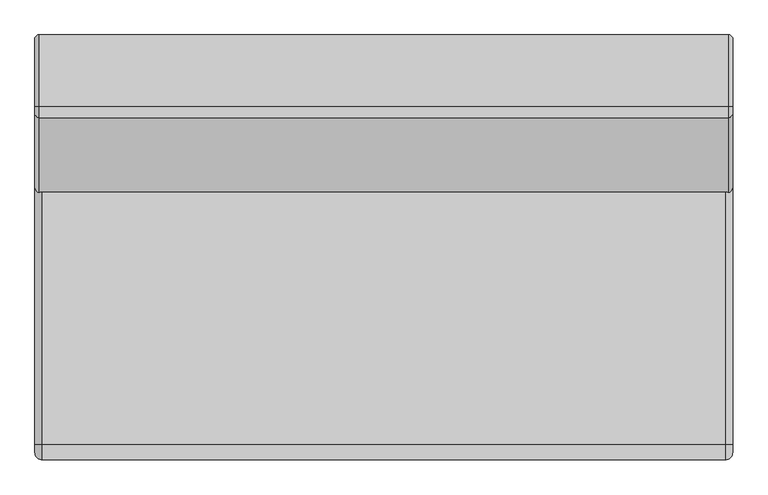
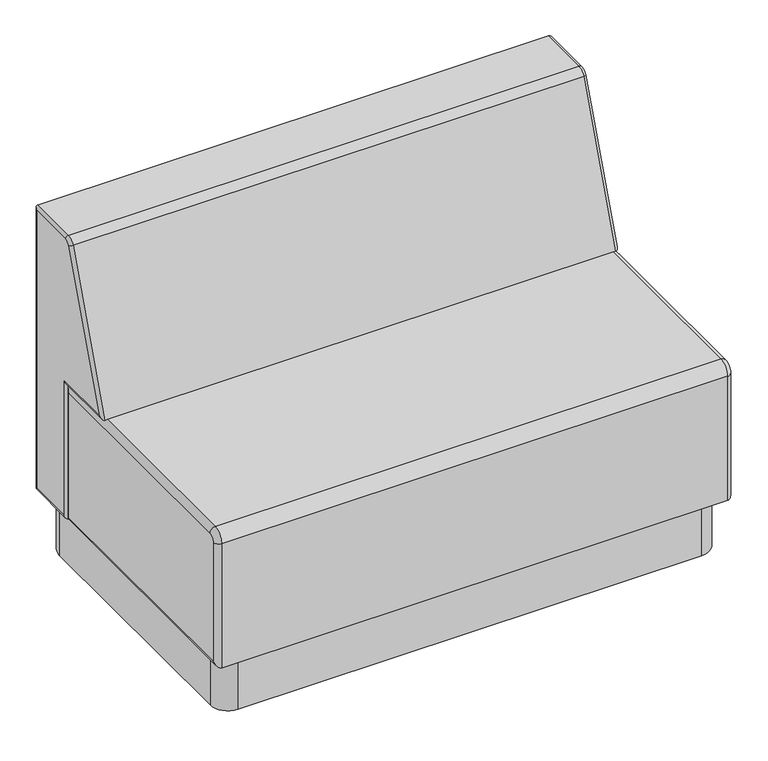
"""IFC4 building model written with IfcOpenShell, lengths in millimetres: furniture geometry, Stance_HC-Rosetta-Modular_Seating_Plinth_Base : RM200P-AL-BHP."""

from ifc_helpers import new_model, si_unit, point, frame, frame_2d, origin, origin_with_axes, place, context, project, spatial, polyline, circle_curve, ellipse_curve, trimmed, segment, composite_curve, outline, extrude, source, transform, mapped, element, save
from ifc_brep_helpers import plane_surface, cylinder_surface, revolved_surface, advanced_brep


def furniture_e0c8666b(model_context):
    return source(origin(), model_context, "Body", "SolidModel", [
        extrude(outline(composite_curve([segment(trimmed(circle_curve(frame_2d((54.0078674, -657.1680567)), 11.90625), [point((54.0078674, -669.0743067))], [point((54.0078674, -645.2618067))], False, "CARTESIAN"), True, "CONTINUOUS"), segment(trimmed(circle_curve(frame_2d((54.0078674, -657.1680567)), 11.90625), [point((54.0078674, -645.2618067))], [point((54.0078674, -669.0743067))], False, "CARTESIAN"), True, "CONTINUOUS")], self_intersect=False)), origin_with_axes(), (0.0, 0.0, 1.0), 6.3627),
        extrude(outline(composite_curve([segment(trimmed(circle_curve(frame_2d((1114.3921326, -657.1680567)), 11.90625), [point((1114.3921326, -669.0743067))], [point((1114.3921326, -645.2618067))], False, "CARTESIAN"), True, "CONTINUOUS"), segment(trimmed(circle_curve(frame_2d((1114.3921326, -657.1680567)), 11.90625), [point((1114.3921326, -645.2618067))], [point((1114.3921326, -669.0743067))], False, "CARTESIAN"), True, "CONTINUOUS")], self_intersect=False)), origin_with_axes(), (0.0, 0.0, 1.0), 6.3627),
        extrude(outline(composite_curve([segment(trimmed(circle_curve(frame_2d((54.0078674, -54.0319433)), 11.90625), [point((54.0078674, -65.9381933))], [point((54.0078674, -42.1256933))], False, "CARTESIAN"), True, "CONTINUOUS"), segment(trimmed(circle_curve(frame_2d((54.0078674, -54.0319433)), 11.90625), [point((54.0078674, -42.1256933))], [point((54.0078674, -65.9381933))], False, "CARTESIAN"), True, "CONTINUOUS")], self_intersect=False)), origin_with_axes(), (0.0, 0.0, 1.0), 6.3627),
        extrude(outline(composite_curve([segment(trimmed(circle_curve(frame_2d((1114.3921326, -54.0319433)), 11.90625), [point((1114.3921326, -65.9381933))], [point((1114.3921326, -42.1256933))], False, "CARTESIAN"), True, "CONTINUOUS"), segment(trimmed(circle_curve(frame_2d((1114.3921326, -54.0319433)), 11.90625), [point((1114.3921326, -42.1256933))], [point((1114.3921326, -65.9381933))], False, "CARTESIAN"), True, "CONTINUOUS")], self_intersect=False)), origin_with_axes(), (0.0, 0.0, 1.0), 6.3627),
        extrude(outline(composite_curve([segment(trimmed(circle_curve(frame_2d((1108.4875, -59.9125)), 39.6875), [point((1108.4875, -20.225))], [point((1148.175, -59.9125))], False, "CARTESIAN"), True, "CONTINUOUS"), segment(polyline([(1148.175, -59.9125), (1148.175, -651.2875)]), True, "CONTINUOUS"), segment(trimmed(circle_curve(frame_2d((1108.4875, -651.2875)), 39.6875), [point((1148.175, -651.2875))], [point((1108.4875, -690.975))], False, "CARTESIAN"), True, "CONTINUOUS"), segment(polyline([(1108.4875, -690.975), (59.9125, -690.975)]), True, "CONTINUOUS"), segment(trimmed(circle_curve(frame_2d((59.9125, -651.2875)), 39.6875), [point((59.9125, -690.975))], [point((20.225, -651.2875))], False, "CARTESIAN"), True, "CONTINUOUS"), segment(polyline([(20.225, -651.2875), (20.225, -59.9125)]), True, "CONTINUOUS"), segment(trimmed(circle_curve(frame_2d((59.9125, -59.9125)), 39.6875), [point((20.225, -59.9125))], [point((59.9125, -20.225))], False, "CARTESIAN"), True, "CONTINUOUS"), segment(polyline([(59.9125, -20.225), (1108.4875, -20.225)]), True, "CONTINUOUS")], self_intersect=False)), frame((0.0, 0.0, 6.3627), z_axis=(0.0, 0.0, 1.0), x_axis=(1.0, 0.0, 0.0)), (0.0, 0.0, 1.0), 128.51892),
        advanced_brep(
        [(1155.7, -711.1999758, 431.8), (1155.7, -685.7999758, 457.2), (12.7, -685.7999758, 457.2), (12.7, -711.1999758, 431.8), (12.7, -711.1999758, 134.88162), (1155.7, -711.1999758, 134.88162), (12.7, -120.65, 134.88162), (1155.7, -120.65, 134.88162), (12.7, -120.65, 457.2), (1155.7, -120.65, 457.2), (1168.4, -698.4999758, 147.58162), (1168.4, -133.35, 147.58162), (1168.4, -133.35, 444.5), (1168.4, -685.7999758, 444.5), (1168.4, -698.4999758, 431.8), (0.0, -685.7999758, 444.5), (0.0, -133.35, 444.5), (0.0, -133.35, 147.58162), (0.0, -698.4999758, 147.58162), (0.0, -698.4999758, 431.8)],
        [
            (0, 1, circle_curve(frame((1155.7, -685.7999758, 431.8), z_axis=(-1.0, 0.0, 0.0), x_axis=(0.0, 0.0, 1.0)), 25.4)),
            (1, 2),
            (2, 3, circle_curve(frame((12.7, -685.7999758, 431.8), z_axis=(1.0, 0.0, 0.0), x_axis=(0.0, 0.0, 1.0)), 25.4)),
            (3, 0),
            (3, 4),
            (4, 5),
            (5, 0),
            (4, 6),
            (6, 7),
            (7, 5),
            (6, 8),
            (8, 9),
            (9, 7),
            (10, 11),
            (11, 12),
            (12, 13),
            (13, 14, circle_curve(frame((1168.4, -685.7999758, 431.8), z_axis=(1.0, 0.0, 0.0), x_axis=(0.0, 0.0, 1.0)), 12.7)),
            (14, 10),
            (15, 16),
            (16, 17),
            (17, 18),
            (18, 19),
            (19, 15, circle_curve(frame((0.0, -685.7999758, 431.8), z_axis=(-1.0, 0.0, 0.0), x_axis=(0.0, 0.0, 1.0)), 12.7)),
            (1, 9),
            (8, 2),
            (0, 14, circle_curve(frame((1155.7, -698.4999758, 431.8), z_axis=(0.0, 0.0, 1.0), x_axis=(0.0, 1.0, 0.0)), 12.7)),
            (13, 1, circle_curve(frame((1155.7, -685.7999758, 444.5), z_axis=(0.0, -1.0, 0.0), x_axis=(0.0, 0.0, -1.0)), 12.7)),
            (2, 15, circle_curve(frame((12.7, -685.7999758, 444.5), z_axis=(0.0, -1.0, 0.0), x_axis=(0.0, 0.0, -1.0)), 12.7)),
            (19, 3, circle_curve(frame((12.7, -698.4999758, 431.8), z_axis=(0.0, 0.0, 1.0), x_axis=(0.0, 1.0, 0.0)), 12.7)),
            (5, 10, ellipse_curve(frame((1155.7, -698.4999758, 147.58162), z_axis=(0.0, -0.7071067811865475, 0.7071067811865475), x_axis=(0.0, 0.7071067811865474, 0.7071067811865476)), 17.9605122, 12.7)),
            (18, 4, ellipse_curve(frame((12.7, -698.4999758, 147.58162), z_axis=(0.0, -0.7071067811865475, 0.7071067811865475), x_axis=(0.0, 0.7071067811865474, 0.7071067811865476)), 17.9605122, 12.7)),
            (7, 11, ellipse_curve(frame((1155.7, -133.35, 147.58162), z_axis=(0.0, -0.7071067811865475, -0.7071067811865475), x_axis=(0.0, -0.7071067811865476, 0.7071067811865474)), 17.9605122, 12.7)),
            (17, 6, ellipse_curve(frame((12.7, -133.35, 147.58162), z_axis=(0.0, -0.7071067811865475, -0.7071067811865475), x_axis=(0.0, -0.7071067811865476, 0.7071067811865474)), 17.9605122, 12.7)),
            (9, 12, ellipse_curve(frame((1155.7, -133.35, 444.5), z_axis=(0.0, 0.7071067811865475, -0.7071067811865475), x_axis=(0.0, -0.7071067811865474, -0.7071067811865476)), 17.9605122, 12.7)),
            (16, 8, ellipse_curve(frame((12.7, -133.35, 444.5), z_axis=(0.0, 0.7071067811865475, -0.7071067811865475), x_axis=(0.0, -0.7071067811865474, -0.7071067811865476)), 17.9605122, 12.7)),
        ],
        [
            cylinder_surface(frame((0.0, -685.7999758, 431.8), z_axis=(1.0, 0.0, 0.0), x_axis=(0.0, 0.0, 1.0)), 25.4),
            plane_surface(frame((12.7, -711.1999758, 431.8), z_axis=(0.0, -1.0, 0.0), x_axis=(0.0, 0.0, -1.0))),
            plane_surface(frame((12.7, -711.1999758, 134.88162), z_axis=(0.0, 0.0, -1.0), x_axis=(0.0, 1.0, 0.0))),
            plane_surface(frame((12.7, -120.65, 134.88162), z_axis=(0.0, 1.0, 0.0), x_axis=(0.0, 0.0, 1.0))),
            plane_surface(frame((1168.4, -133.35, 444.5), z_axis=(1.0, 0.0, 0.0), x_axis=(0.0, -1.0, 0.0))),
            plane_surface(frame((0.0, -139.7, 438.15), z_axis=(-1.0, 0.0, 0.0), x_axis=(0.0, -1.0, 0.0))),
            plane_surface(frame((12.7, -120.65, 457.2), z_axis=(0.0, 0.0, 1.0), x_axis=(0.0, -1.0, 0.0))),
            revolved_surface(trimmed(ellipse_curve(frame((1155.7, -685.7999758, 444.5), z_axis=(0.0, 1.0, 0.0), x_axis=(0.0, 0.0, -1.0)), 12.7, 12.7), [point((1155.7, -685.7999758, 457.2))], [point((1168.4, -685.7999758, 444.5))], True, "CARTESIAN"), (0.0, -685.7999758, 431.8), (1.0, 0.0, 0.0)),
            revolved_surface(trimmed(ellipse_curve(frame((12.7, -685.7999758, 444.5), z_axis=(0.0, 1.0, 0.0), x_axis=(0.0, 0.0, -1.0)), 12.7, 12.7), [point((0.0, -685.7999758, 444.5))], [point((12.7, -685.7999758, 457.2))], True, "CARTESIAN"), (0.0, -685.7999758, 431.8), (1.0, 0.0, 0.0)),
            cylinder_surface(frame((1155.7, -698.4999758, 431.8), z_axis=(0.0, 0.0, 1.0), x_axis=(0.0, 1.0, 0.0)), 12.7),
            cylinder_surface(frame((12.7, -698.4999758, 431.8), z_axis=(0.0, 0.0, 1.0), x_axis=(0.0, 1.0, 0.0)), 12.7),
            cylinder_surface(frame((1155.7, -711.1999758, 147.58162), z_axis=(0.0, -1.0, 0.0), x_axis=(0.0, 0.0, 1.0)), 12.7),
            cylinder_surface(frame((12.7, -711.1999758, 147.58162), z_axis=(0.0, -1.0, 0.0), x_axis=(0.0, 0.0, 1.0)), 12.7),
            cylinder_surface(frame((1155.7, -133.35, 134.88162), z_axis=(0.0, 0.0, -1.0), x_axis=(0.0, -1.0, 0.0)), 12.7),
            cylinder_surface(frame((12.7, -133.35, 134.88162), z_axis=(0.0, 0.0, -1.0), x_axis=(0.0, -1.0, 0.0)), 12.7),
            cylinder_surface(frame((1155.7, -120.65, 444.5), z_axis=(0.0, 1.0, 0.0), x_axis=(0.0, 0.0, -1.0)), 12.7),
            cylinder_surface(frame((12.7, -120.65, 444.5), z_axis=(0.0, 1.0, 0.0), x_axis=(0.0, 0.0, -1.0)), 12.7),
        ],
        [
            (0, [[1, 2, 3, 4]]),
            (1, [[-4, 5, 6, 7]]),
            (2, [[-6, 8, 9, 10]]),
            (3, [[-9, 11, 12, 13]]),
            (4, [[14, 15, 16, 17, 18]]),
            (5, [[19, 20, 21, 22, 23]]),
            (6, [[-2, 24, -12, 25]]),
            (7, [[-1, 26, -17, 27]]),
            (8, [[-3, 28, -23, 29]]),
            (9, [[-7, 30, -18, -26]]),
            (10, [[-5, -29, -22, 31]]),
            (11, [[-10, 32, -14, -30]]),
            (12, [[-8, -31, -21, 33]]),
            (13, [[-13, 34, -15, -32]]),
            (14, [[-11, -33, -20, 35]]),
            (15, [[-16, -34, -24, -27]]),
            (16, [[-19, -28, -25, -35]]),
        ],
    ),
        advanced_brep(
        [(1168.4, -132.3105296, 798.0936558), (1168.4, -120.3764333, 806.45), (1162.05, -120.3764333, 812.8), (1162.05, -138.2775777, 800.2654837), (6.35, -138.2775777, 800.2654837), (6.35, -120.3764333, 812.8), (0.0, -120.3764333, 806.45), (0.0, -132.3105296, 798.0936558), (1162.05, -263.1432022, 457.2), (1168.4, -254.0744624, 463.55), (0.0, -254.0744624, 463.55), (6.35, -263.1432022, 457.2), (1162.05, -120.65, 457.2), (1168.4, -114.3, 463.55), (0.0, -114.3, 463.55), (6.35, -120.65, 457.2), (1162.05, -120.65, 134.88162), (1168.4, -114.3, 141.23162), (0.0, -114.3, 141.23162), (6.35, -120.65, 134.88162), (1162.05, 0.0, 134.88162), (1168.4, -6.35, 141.23162), (0.0, -6.35, 141.23162), (6.35, 0.0, 134.88162), (1162.05, 0.0, 812.8), (1168.4, -6.35, 806.45), (0.0, -6.35, 806.45), (6.35, 0.0, 812.8)],
        [
            (0, 1, circle_curve(frame((1168.4, -120.3764333, 793.75), z_axis=(-1.0, 0.0, 0.0), x_axis=(0.0, 0.0, 1.0)), 12.7)),
            (1, 2, circle_curve(frame((1162.05, -120.3764333, 806.45), z_axis=(0.0, -1.0, 0.0), x_axis=(0.0, 0.0, -1.0)), 6.35)),
            (2, 3, circle_curve(frame((1162.05, -120.3764333, 793.75), z_axis=(1.0, 0.0, 0.0), x_axis=(0.0, 0.0, 1.0)), 19.05)),
            (3, 0, circle_curve(frame((1162.05, -132.3105296, 798.0936558), z_axis=(0.0, 0.34202014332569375, 0.9396926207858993), x_axis=(0.0, 0.9396926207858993, -0.34202014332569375)), 6.35)),
            (4, 5, circle_curve(frame((6.35, -120.3764333, 793.75), z_axis=(-1.0, 0.0, 0.0), x_axis=(0.0, 0.0, 1.0)), 19.05)),
            (5, 6, circle_curve(frame((6.35, -120.3764333, 806.45), z_axis=(0.0, -1.0, 0.0), x_axis=(0.0, 0.0, -1.0)), 6.35)),
            (6, 7, circle_curve(frame((0.0, -120.3764333, 793.75), z_axis=(1.0, 0.0, 0.0), x_axis=(0.0, 0.0, 1.0)), 12.7)),
            (7, 4, circle_curve(frame((6.35, -132.3105296, 798.0936558), z_axis=(0.0, 0.3420201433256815, 0.9396926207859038), x_axis=(0.0, 0.9396926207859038, -0.3420201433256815)), 6.35)),
            (2, 5),
            (4, 3),
            (3, 8),
            (8, 9, ellipse_curve(frame((1162.05, -254.0744624, 463.55), z_axis=(0.0, -0.5735764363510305, 0.8191520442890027), x_axis=(0.0, 0.8191520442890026, 0.5735764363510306)), 11.0708872, 6.35)),
            (9, 0),
            (7, 10),
            (10, 11, ellipse_curve(frame((6.35, -254.0744624, 463.55), z_axis=(0.0, -0.5735764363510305, 0.8191520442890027), x_axis=(0.0, 0.8191520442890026, 0.5735764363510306)), 11.0708872, 6.35)),
            (11, 4),
            (11, 8),
            (8, 12),
            (12, 13, ellipse_curve(frame((1162.05, -114.3, 463.55), z_axis=(0.0, -0.7071067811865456, 0.7071067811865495), x_axis=(0.0, -0.7071067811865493, -0.7071067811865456)), 8.9802561, 6.35)),
            (13, 9),
            (10, 14),
            (14, 15, ellipse_curve(frame((6.35, -114.3, 463.55), z_axis=(0.0, -0.7071067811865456, 0.7071067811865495), x_axis=(0.0, -0.7071067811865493, -0.7071067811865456)), 8.9802561, 6.35)),
            (15, 11),
            (15, 12),
            (12, 16),
            (16, 17, ellipse_curve(frame((1162.05, -114.3, 141.23162), z_axis=(0.0, -0.7071067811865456, 0.7071067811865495), x_axis=(0.0, 0.7071067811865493, 0.7071067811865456)), 8.9802561, 6.35)),
            (17, 13),
            (14, 18),
            (18, 19, ellipse_curve(frame((6.35, -114.3, 141.23162), z_axis=(0.0, -0.7071067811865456, 0.7071067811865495), x_axis=(0.0, 0.7071067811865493, 0.7071067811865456)), 8.9802561, 6.35)),
            (19, 15),
            (19, 16),
            (16, 20),
            (20, 21, ellipse_curve(frame((1162.05, -6.35, 141.23162), z_axis=(0.0, -0.7071067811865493, -0.7071067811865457), x_axis=(0.0, -0.7071067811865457, 0.7071067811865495)), 8.9802561, 6.35)),
            (21, 17),
            (18, 22),
            (22, 23, ellipse_curve(frame((6.35, -6.35, 141.23162), z_axis=(0.0, -0.7071067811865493, -0.7071067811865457), x_axis=(0.0, -0.7071067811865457, 0.7071067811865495)), 8.9802561, 6.35)),
            (23, 19),
            (23, 20),
            (20, 24),
            (24, 25, ellipse_curve(frame((1162.05, -6.35, 806.45), z_axis=(0.0, 0.7071067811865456, -0.7071067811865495), x_axis=(0.0, -0.7071067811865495, -0.7071067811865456)), 8.9802561, 6.35)),
            (25, 21),
            (22, 26),
            (26, 27, ellipse_curve(frame((6.35, -6.35, 806.45), z_axis=(0.0, 0.7071067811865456, -0.7071067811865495), x_axis=(0.0, -0.7071067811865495, -0.7071067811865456)), 8.9802561, 6.35)),
            (27, 23),
            (27, 24),
            (1, 25),
            (24, 2),
            (6, 26),
            (5, 27),
        ],
        [
            revolved_surface(trimmed(ellipse_curve(frame((1162.05, -120.3764333, 806.45), z_axis=(0.0, 1.0, 0.0), x_axis=(0.0, 0.0, -1.0)), 6.35, 6.35), [point((1162.05, -120.3764333, 812.8))], [point((1168.4, -120.3764333, 806.45))], True, "CARTESIAN"), (0.0, -120.3764333, 793.75), (1.0, 0.0, 0.0)),
            revolved_surface(trimmed(ellipse_curve(frame((6.35, -120.3764333, 806.45), z_axis=(0.0, 1.0, 0.0), x_axis=(0.0, 0.0, -1.0)), 6.35, 6.35), [point((0.0, -120.3764333, 806.45))], [point((6.35, -120.3764333, 812.8))], True, "CARTESIAN"), (0.0, -120.3764333, 793.75), (1.0, 0.0, 0.0)),
            cylinder_surface(frame((0.0, -120.3764333, 793.75), z_axis=(1.0, 0.0, 0.0), x_axis=(0.0, 0.0, 1.0)), 19.05),
            cylinder_surface(frame((1162.05, -132.3105296, 798.0936558), z_axis=(0.0, 0.342020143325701, 0.9396926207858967), x_axis=(0.0, 0.9396926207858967, -0.342020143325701)), 6.35),
            cylinder_surface(frame((6.35, -132.3105296, 798.0936558), z_axis=(0.0, 0.342020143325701, 0.9396926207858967), x_axis=(0.0, 0.9396926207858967, -0.342020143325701)), 6.35),
            plane_surface(frame((6.35, -138.2775777, 800.2654837), z_axis=(0.0, -0.9396926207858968, 0.3420201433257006), x_axis=(0.0, -0.3420201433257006, -0.9396926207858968))),
            cylinder_surface(frame((1162.05, -263.1432022, 463.55), z_axis=(0.0, -1.0, 0.0), x_axis=(0.0, 0.0, 1.0)), 6.35),
            cylinder_surface(frame((6.35, -263.1432022, 463.55), z_axis=(0.0, -1.0, 0.0), x_axis=(0.0, 0.0, 1.0)), 6.35),
            plane_surface(frame((6.35, -263.1432022, 457.2), z_axis=(0.0, 0.0, -1.0), x_axis=(0.0, 1.0, 0.0))),
            cylinder_surface(frame((1162.05, -114.3, 457.2), z_axis=(0.0, 0.0, 1.0), x_axis=(0.0, 1.0, 0.0)), 6.35),
            cylinder_surface(frame((6.35, -114.3, 457.2), z_axis=(0.0, 0.0, 1.0), x_axis=(0.0, 1.0, 0.0)), 6.35),
            plane_surface(frame((6.35, -120.65, 457.2), z_axis=(0.0, -1.0, 0.0), x_axis=(0.0, 0.0, -1.0))),
            cylinder_surface(frame((1162.05, -120.65, 141.23162), z_axis=(0.0, -1.0, 0.0), x_axis=(0.0, 0.0, 1.0)), 6.35),
            cylinder_surface(frame((6.35, -120.65, 141.23162), z_axis=(0.0, -1.0, 0.0), x_axis=(0.0, 0.0, 1.0)), 6.35),
            plane_surface(frame((6.35, -120.65, 134.88162), z_axis=(0.0, 0.0, -1.0), x_axis=(0.0, 1.0, 0.0))),
            cylinder_surface(frame((1162.05, -6.35, 134.88162), z_axis=(0.0, 0.0, -1.0), x_axis=(0.0, -1.0, 0.0)), 6.35),
            cylinder_surface(frame((6.35, -6.35, 134.88162), z_axis=(0.0, 0.0, -1.0), x_axis=(0.0, -1.0, 0.0)), 6.35),
            plane_surface(frame((6.35, 0.0, 134.88162), z_axis=(0.0, 1.0, 0.0), x_axis=(0.0, 0.0, 1.0))),
            cylinder_surface(frame((1162.05, 0.0, 806.45), z_axis=(0.0, 1.0, 0.0), x_axis=(0.0, 0.0, -1.0)), 6.35),
            plane_surface(frame((1168.4, -6.35, 806.45), z_axis=(1.0, 0.0, 0.0), x_axis=(0.0, -1.0, 0.0))),
            plane_surface(frame((0.0, -12.7, 800.1), z_axis=(-1.0, 0.0, 0.0), x_axis=(0.0, -1.0, 0.0))),
            cylinder_surface(frame((6.35, 0.0, 806.45), z_axis=(0.0, 1.0, 0.0), x_axis=(0.0, 0.0, -1.0)), 6.35),
            plane_surface(frame((6.35, 0.0, 812.8), z_axis=(0.0, 0.0, 1.0), x_axis=(0.0, -1.0, 0.0))),
        ],
        [
            (0, [[1, 2, 3, 4]]),
            (1, [[5, 6, 7, 8]]),
            (2, [[-3, 9, -5, 10]]),
            (3, [[-4, 11, 12, 13]]),
            (4, [[-8, 14, 15, 16]]),
            (5, [[-10, -16, 17, -11]]),
            (6, [[-12, 18, 19, 20]]),
            (7, [[-15, 21, 22, 23]]),
            (8, [[-17, -23, 24, -18]]),
            (9, [[-19, 25, 26, 27]]),
            (10, [[-22, 28, 29, 30]]),
            (11, [[-24, -30, 31, -25]]),
            (12, [[-26, 32, 33, 34]]),
            (13, [[-29, 35, 36, 37]]),
            (14, [[-31, -37, 38, -32]]),
            (15, [[-33, 39, 40, 41]]),
            (16, [[-36, 42, 43, 44]]),
            (17, [[-38, -44, 45, -39]]),
            (18, [[-2, 46, -40, 47]]),
            (19, [[-1, -13, -20, -27, -34, -41, -46]]),
            (20, [[-7, 48, -42, -35, -28, -21, -14]]),
            (21, [[-6, 49, -43, -48]]),
            (22, [[-9, -47, -45, -49]]),
        ],
    ),
    ])


if __name__ == "__main__":
    model = new_model("IFC4")
    model_context = context("Model", 3, world=origin())
    ifc_project = project(units=[si_unit("LENGTHUNIT", "METRE", prefix="MILLI")], contexts=[model_context])
    site = spatial("IfcSite", under=ifc_project)
    building = spatial("IfcBuilding", under=site)
    placement = place(None, origin())
    furniture_shape = furniture_e0c8666b(model_context)
    element("IfcFurniture", 1, ObjectType="Stance_HC-Rosetta-Modular_Seating_Plinth_Base : RM200P-AL-BHP", at=placement, inside=building, context=model_context, shape_type="MappedRepresentation", body=[
        mapped(furniture_shape, transform((0.0, 0.0, 0.0), x_axis=(1.0, 0.0, 0.0), y_axis=(0.0, 1.0, 0.0), z_axis=(0.0, 0.0, 1.0))),
    ])
    save(model, "model.ifc")
